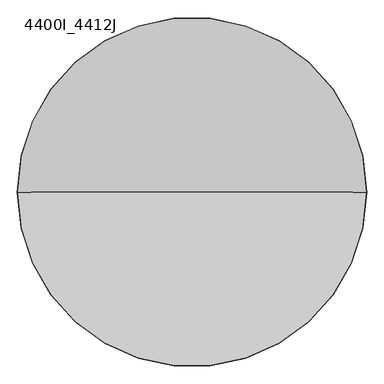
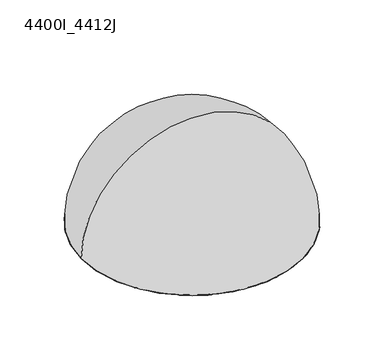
"""IFC4 building model written with IfcOpenShell, lengths in millimetres: alarm geometry, 4400I_Analog Multi Detector : 4400I_4412J."""

from ifc_helpers import new_model, si_unit, point, frame, origin, origin_with_axes, origin_2d, place, context, project, spatial, polyline, circle_curve, ellipse_curve, trimmed, segment, composite_curve, outline, extrude, source, transform, mapped, element, save
from ifc_brep_helpers import plane_surface, cylinder_surface, revolved_surface, advanced_brep


def alarm_4400i_4412j_adf62544(model_context):
    return source(origin(), model_context, "Body", "SolidModel", [
        advanced_brep(
        [(49.4021885, 0.0, 18.7), (-49.4021885, 0.0, 18.7), (-29.0341186, 0.0, 25.5490601), (29.0341186, 0.0, 25.5490601), (46.9790343, 0.0, 18.7), (-46.9790343, 0.0, 18.7), (26.6109644, 0.0, 25.5490601), (-26.6109644, 0.0, 25.5490601)],
        [
            (0, 1, circle_curve(frame((0.0, 0.0, 18.7), z_axis=(0.0, 0.0, 1.0), x_axis=(-1.0, 0.0, 0.0)), 49.4021885)),
            (1, 2),
            (2, 3, circle_curve(frame((0.0, 0.0, 25.5490601), z_axis=(0.0, 0.0, -1.0), x_axis=(-1.0, 0.0, 0.0)), 29.0341186)),
            (3, 0),
            (1, 0, circle_curve(frame((0.0, 0.0, 18.7), z_axis=(0.0, 0.0, 1.0), x_axis=(-1.0, 0.0, 0.0)), 49.4021885)),
            (3, 2, circle_curve(frame((0.0, 0.0, 25.5490601), z_axis=(0.0, 0.0, -1.0), x_axis=(-1.0, 0.0, 0.0)), 29.0341186)),
            (4, 5, circle_curve(frame((0.0, 0.0, 18.7), z_axis=(0.0, 0.0, 1.0), x_axis=(-1.0, 0.0, 0.0)), 46.9790343)),
            (5, 1),
            (0, 4),
            (5, 4, circle_curve(frame((0.0, 0.0, 18.7), z_axis=(0.0, 0.0, 1.0), x_axis=(-1.0, 0.0, 0.0)), 46.9790343)),
            (6, 7, circle_curve(frame((0.0, 0.0, 25.5490601), z_axis=(0.0, 0.0, 1.0), x_axis=(-1.0, 0.0, 0.0)), 26.6109644)),
            (7, 5),
            (4, 6),
            (7, 6, circle_curve(frame((0.0, 0.0, 25.5490601), z_axis=(0.0, 0.0, 1.0), x_axis=(-1.0, 0.0, 0.0)), 26.6109644)),
            (2, 7),
            (6, 3),
        ],
        [
            revolved_surface(polyline([(-29.0341186, 0.0, 25.5490601), (-49.4021885, 0.0, 18.7)]), (0.0, 0.0, 2609.0581012), (0.0, 0.0, -1.0)),
            plane_surface(frame((0.0, 0.0, 18.7), z_axis=(0.0, 0.0, -1.0), x_axis=(-1.0, 0.0, 0.0))),
            revolved_surface(polyline([(-46.9790343, 0.0, 18.7), (-26.6109644, 0.0, 25.5490601)]), (0.0, 0.0, 2609.0581012), (0.0, 0.0, -1.0)),
            plane_surface(frame((0.0, 0.0, 25.5490601), z_axis=(0.0, 0.0, 1.0), x_axis=(-1.0, 0.0, 0.0))),
        ],
        [
            (0, [[1, 2, 3, 4]]),
            (0, [[5, -4, 6, -2]]),
            (1, [[7, 8, -1, 9]]),
            (1, [[10, -9, -5, -8]]),
            (2, [[11, 12, -7, 13]]),
            (2, [[14, -13, -10, -12]]),
            (3, [[-3, 15, -11, 16]]),
            (3, [[-6, -16, -14, -15]]),
        ],
    ),
        advanced_brep(
        [(-25.0, 0.0, 47.0), (25.0, 0.0, 47.0), (-10.2364426, 22.8082275, 25.5490601), (-7.8171012, 23.7464298, 25.5490601), (-6.566365, 19.9470011, 25.5490601), (-0.7601379, 20.9862381, 25.5490601), (-0.7748533, 24.9879892, 25.5490601), (1.8194655, 24.933703, 25.5490601), (1.528351, 20.9443105, 25.5490601), (7.2926143, 19.6930895, 25.5490601), (8.8036125, 23.3986411, 25.5490601), (11.1815896, 22.3600549, 25.5490601), (9.3925353, 18.7824461, 25.5490601), (14.2453716, 15.4294973, 25.5490601), (17.0541691, 18.2799157, 25.5490601), (18.857118, 16.4136864, 25.5490601), (15.8399791, 13.7874966, 25.5490601), (19.0494019, 8.8385682, 25.5490601), (22.7323284, 10.4039053, 25.5490601), (23.688298, 7.9915291, 25.5490601), (19.8981703, 6.7128844, 25.5490601), (20.9800803, 0.9144573, 25.5490601), (24.9816149, 0.9586025, 25.5490601), (25.0, 0.0, 25.5490601), (24.9464097, -1.6360453, 25.5490601), (20.9549841, -1.3742781, 25.5490601), (19.7461893, -7.1475874, 25.5490601), (23.4627531, -8.6312929, 25.5490601), (22.4416834, -11.0168438, 25.5490601), (18.851014, -9.2541488, 25.5490601), (15.5338454, -14.1315126, 25.5490601), (18.4048435, -16.9192711, 25.5490601), (16.5519242, -18.7358962, 25.5490601), (13.9036163, -15.7381528, 25.5490601), (8.978425, -18.9838849, 25.5490601), (10.5708052, -22.6551998, 25.5490601), (8.1655248, -23.628885, 25.5490601), (6.8590408, -19.8482634, 25.5490601), (1.0687273, -20.9727877, 25.5490601), (1.1422999, -24.9738894, 25.5490601), (-1.4525367, -24.9577671, 25.5490601), (-1.2201308, -20.9645243, 25.5490601), (-7.0021739, -19.7982211, 25.5490601), (-8.4585064, -23.5255961, 25.5490601), (-10.8515021, -22.5220981, 25.5490601), (-9.1152617, -18.9185624, 25.5490601), (-14.0168893, -15.6373532, 25.5490601), (-16.7834581, -18.5287758, 25.5490601), (-18.613661, -16.6892667, 25.5490601), (-15.6354753, -14.018984, 25.5490601), (-18.9173411, -9.1177961, 25.5490601), (-22.5768458, -10.7371334, 25.5490601), (-23.5681939, -8.3390788, 25.5490601), (-19.7972829, -7.0048262, 25.5490601), (-20.9643607, -1.2229394, 25.5490601), (-24.9648131, -1.3259355, 25.5490601), (-25.0, 0.0, 25.5490601), (-24.9677746, 1.2689495, 25.5490601), (-20.9729306, 1.0659176, 25.5490601), (-19.8491821, 6.8563817, 25.5490601), (-23.5871666, 8.2852624, 25.5490601), (-22.2772169, 11.3457307, 25.5490601), (-18.7128622, 9.5304138, 25.5490601), (-15.3243147, 14.3584602, 25.5490601), (-18.1539992, 17.1881446, 25.5490601), (-16.2745608, 18.9773199, 25.5490601), (-13.6706311, 15.9409487, 25.5490601), (-8.6982334, 19.1138885, 25.5490601), (-24.9648131, -1.3259355, 44.9967715), (-23.5681939, -8.3390788, 44.9967715), (-22.5768458, -10.7371334, 44.9967715), (-18.613661, -16.6892667, 44.9967715), (-16.7834581, -18.5287758, 44.9967715), (-10.8515021, -22.5220981, 44.9967715), (-8.4585064, -23.5255961, 44.9967715), (-1.4525367, -24.9577671, 44.9967715), (1.1422999, -24.9738894, 44.9967715), (8.1655248, -23.628885, 44.9967715), (10.5708052, -22.6551998, 44.9967715), (16.5519242, -18.7358962, 44.9967715), (18.4048435, -16.9192711, 44.9967715), (22.4416834, -11.0168438, 44.9967715), (23.4627531, -8.6312929, 44.9967715), (24.9464097, -1.6360453, 44.9967715), (24.9816149, 0.9586025, 44.9967715), (23.688298, 7.9915291, 44.9967715), (22.7323284, 10.4039053, 44.9967715), (18.857118, 16.4136864, 44.9967715), (17.0541691, 18.2799157, 44.9967715), (11.1815896, 22.3600549, 44.9967715), (8.8036125, 23.3986411, 44.9967715), (1.8194655, 24.933703, 44.9967715), (-0.7748533, 24.9879892, 44.9967715), (-7.8171012, 23.7464298, 44.9967715), (-10.2364426, 22.8082275, 44.9967715), (-16.2745608, 18.9773199, 44.9967715), (-18.1539992, 17.1881446, 44.9967715), (-22.2772169, 11.3457307, 44.9967715), (-23.5871666, 8.2852624, 44.9967715), (-24.9677746, 1.2689495, 44.9967715), (-8.6982334, 19.1138885, 44.9967715), (-13.6706311, 15.9409487, 44.9967715), (-0.7601379, 20.9862381, 44.9967715), (-6.566365, 19.9470011, 44.9967715), (7.2926143, 19.6930895, 44.9967715), (1.528351, 20.9443105, 44.9967715), (14.2453716, 15.4294973, 44.9967715), (9.3925353, 18.7824461, 44.9967715), (19.0494019, 8.8385682, 44.9967715), (15.8399791, 13.7874966, 44.9967715), (20.9800803, 0.9144573, 44.9967715), (19.8981703, 6.7128844, 44.9967715), (19.7461893, -7.1475874, 44.9967715), (20.9549841, -1.3742781, 44.9967715), (15.5338454, -14.1315126, 44.9967715), (18.851014, -9.2541488, 44.9967715), (8.978425, -18.9838849, 44.9967715), (13.9036163, -15.7381528, 44.9967715), (1.0687273, -20.9727877, 44.9967715), (6.8590408, -19.8482634, 44.9967715), (-7.0021739, -19.7982211, 44.9967715), (-1.2201308, -20.9645243, 44.9967715), (-14.0168893, -15.6373532, 44.9967715), (-9.1152617, -18.9185624, 44.9967715), (-18.9173411, -9.1177961, 44.9967715), (-15.6354753, -14.018984, 44.9967715), (-20.9643607, -1.2229394, 44.9967715), (-19.7972829, -7.0048262, 44.9967715), (-19.8491821, 6.8563817, 44.9967715), (-20.9729306, 1.0659176, 44.9967715), (-15.3243147, 14.3584602, 44.9967715), (-18.7128622, 9.5304138, 44.9967715)],
        [
            (0, 1, circle_curve(frame((0.0, 0.0, 47.0), z_axis=(0.0, 0.0, 1.0), x_axis=(1.0, 0.0, 0.0)), 25.0)),
            (1, 0, circle_curve(frame((0.0, 0.0, 47.0), z_axis=(0.0, 0.0, 1.0), x_axis=(1.0, 0.0, 0.0)), 25.0)),
            (2, 3, circle_curve(frame((0.0, 0.0, 25.5490601), z_axis=(0.0, 0.0, -1.0), x_axis=(1.0, 0.0, 0.0)), 25.0)),
            (3, 4),
            (4, 5, circle_curve(frame((0.0, 0.0, 25.5490601), z_axis=(0.0, 0.0, -1.0), x_axis=(0.7097021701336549, -0.7045018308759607, 0.0)), 21.0)),
            (5, 6),
            (6, 7, circle_curve(frame((0.0, 0.0, 25.5490601), z_axis=(0.0, 0.0, -1.0), x_axis=(1.0, 0.0, 0.0)), 25.0)),
            (7, 8),
            (8, 9, circle_curve(frame((0.0, 0.0, 25.5490601), z_axis=(0.0, 0.0, -1.0), x_axis=(0.38777352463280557, -0.9217546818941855, 0.0)), 21.0)),
            (9, 10),
            (10, 11, circle_curve(frame((0.0, 0.0, 25.5490601), z_axis=(0.0, 0.0, -1.0), x_axis=(1.0, 0.0, 0.0)), 25.0)),
            (11, 12),
            (12, 13, circle_curve(frame((0.0, 0.0, 25.5490601), z_axis=(0.0, 0.0, -1.0), x_axis=(0.0073543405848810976, -0.9999729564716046, 0.0)), 21.0)),
            (13, 14),
            (14, 15, circle_curve(frame((0.0, 0.0, 25.5490601), z_axis=(0.0, 0.0, -1.0), x_axis=(1.0, 0.0, 0.0)), 25.0)),
            (15, 16),
            (16, 17, circle_curve(frame((0.0, 0.0, 25.5490601), z_axis=(0.0, 0.0, -1.0), x_axis=(-0.3741741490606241, -0.9273584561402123, 0.0)), 21.0)),
            (17, 18),
            (18, 19, circle_curve(frame((0.0, 0.0, 25.5490601), z_axis=(0.0, 0.0, -1.0), x_axis=(1.0, 0.0, 0.0)), 25.0)),
            (19, 20),
            (20, 21, circle_curve(frame((0.0, 0.0, 25.5490601), z_axis=(0.0, 0.0, -1.0), x_axis=(-0.6992633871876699, -0.7148641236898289, 0.0)), 21.0)),
            (21, 22),
            (22, 23, circle_curve(frame((0.0, 0.0, 25.5490601), z_axis=(0.0, 0.0, -1.0), x_axis=(1.0, 0.0, 0.0)), 25.0)),
            (23, 24, circle_curve(frame((0.0, 0.0, 25.5490601), z_axis=(0.0, 0.0, -1.0), x_axis=(1.0, 0.0, 0.0)), 25.0)),
            (24, 25),
            (25, 26, circle_curve(frame((0.0, 0.0, 25.5490601), z_axis=(0.0, 0.0, -1.0), x_axis=(-0.9188779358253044, -0.39454193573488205, 0.0)), 21.0)),
            (26, 27),
            (27, 28, circle_curve(frame((0.0, 0.0, 25.5490601), z_axis=(0.0, 0.0, -1.0), x_axis=(1.0, 0.0, 0.0)), 25.0)),
            (28, 29),
            (29, 30, circle_curve(frame((0.0, 0.0, 25.5490601), z_axis=(0.0, 0.0, -1.0), x_axis=(-0.9998918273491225, -0.014708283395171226, 0.0)), 21.0)),
            (30, 31),
            (31, 32, circle_curve(frame((0.0, 0.0, 25.5490601), z_axis=(0.0, 0.0, -1.0), x_axis=(1.0, 0.0, 0.0)), 25.0)),
            (32, 33),
            (33, 34, circle_curve(frame((0.0, 0.0, 25.5490601), z_axis=(0.0, 0.0, -1.0), x_axis=(-0.9300851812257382, 0.3673439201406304, 0.0)), 21.0)),
            (34, 35),
            (35, 36, circle_curve(frame((0.0, 0.0, 25.5490601), z_axis=(0.0, 0.0, -1.0), x_axis=(1.0, 0.0, 0.0)), 25.0)),
            (36, 37),
            (37, 38, circle_curve(frame((0.0, 0.0, 25.5490601), z_axis=(0.0, 0.0, -1.0), x_axis=(-0.7199874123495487, 0.6939871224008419, 0.0)), 21.0)),
            (38, 39),
            (39, 40, circle_curve(frame((0.0, 0.0, 25.5490601), z_axis=(0.0, 0.0, -1.0), x_axis=(1.0, 0.0, 0.0)), 25.0)),
            (40, 41),
            (41, 42, circle_curve(frame((0.0, 0.0, 25.5490601), z_axis=(0.0, 0.0, -1.0), x_axis=(-0.4012890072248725, 0.9159514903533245, 0.0)), 21.0)),
            (42, 43),
            (43, 44, circle_curve(frame((0.0, 0.0, 25.5490601), z_axis=(0.0, 0.0, -1.0), x_axis=(1.0, 0.0, 0.0)), 25.0)),
            (44, 45),
            (45, 46, circle_curve(frame((0.0, 0.0, 25.5490601), z_axis=(0.0, 0.0, -1.0), x_axis=(-0.022061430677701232, 0.9997566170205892, 0.0)), 21.0)),
            (46, 47),
            (47, 48, circle_curve(frame((0.0, 0.0, 25.5490601), z_axis=(0.0, 0.0, -1.0), x_axis=(1.0, 0.0, 0.0)), 25.0)),
            (48, 49),
            (49, 50, circle_curve(frame((0.0, 0.0, 25.5490601), z_axis=(0.0, 0.0, -1.0), x_axis=(0.36049382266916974, 0.9327616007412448, 0.0)), 21.0)),
            (50, 51),
            (51, 52, circle_curve(frame((0.0, 0.0, 25.5490601), z_axis=(0.0, 0.0, -1.0), x_axis=(1.0, 0.0, 0.0)), 25.0)),
            (52, 53),
            (53, 54, circle_curve(frame((0.0, 0.0, 25.5490601), z_axis=(0.0, 0.0, -1.0), x_axis=(0.6886733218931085, 0.7250717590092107, 0.0)), 21.0)),
            (54, 55),
            (55, 56, circle_curve(frame((0.0, 0.0, 25.5490601), z_axis=(0.0, 0.0, -1.0), x_axis=(1.0, 0.0, 0.0)), 25.0)),
            (56, 57, circle_curve(frame((0.0, 0.0, 25.5490601), z_axis=(0.0, 0.0, -1.0), x_axis=(1.0, 0.0, 0.0)), 25.0)),
            (57, 58),
            (58, 59, circle_curve(frame((0.0, 0.0, 25.5490601), z_axis=(0.0, 0.0, -1.0), x_axis=(0.9129755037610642, 0.4080143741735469, 0.0)), 21.0)),
            (59, 60),
            (60, 61, circle_curve(frame((0.0, 0.0, 25.5490601), z_axis=(0.0, 0.0, -1.0), x_axis=(1.0, 0.0, 0.0)), 25.0)),
            (61, 62),
            (62, 63, circle_curve(frame((0.0, 0.0, 25.5490601), z_axis=(0.0, 0.0, -1.0), x_axis=(1.0, 0.0, 0.0)), 21.0)),
            (63, 64),
            (64, 65, circle_curve(frame((0.0, 0.0, 25.5490601), z_axis=(0.0, 0.0, -1.0), x_axis=(1.0, 0.0, 0.0)), 25.0)),
            (65, 66),
            (66, 67, circle_curve(frame((0.0, 0.0, 25.5490601), z_axis=(0.0, 0.0, -1.0), x_axis=(0.9245815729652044, -0.3809841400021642, 0.0)), 21.0)),
            (67, 2),
            (0, 56),
            (55, 68),
            (68, 69, circle_curve(frame((0.0, 0.0, 44.9967715), z_axis=(0.0, 0.0, 1.0), x_axis=(1.0, 0.0, 0.0)), 25.0)),
            (69, 52),
            (51, 70),
            (70, 71, circle_curve(frame((0.0, 0.0, 44.9967715), z_axis=(0.0, 0.0, 1.0), x_axis=(1.0, 0.0, 0.0)), 25.0)),
            (71, 48),
            (47, 72),
            (72, 73, circle_curve(frame((0.0, 0.0, 44.9967715), z_axis=(0.0, 0.0, 1.0), x_axis=(1.0, 0.0, 0.0)), 25.0)),
            (73, 44),
            (43, 74),
            (74, 75, circle_curve(frame((0.0, 0.0, 44.9967715), z_axis=(0.0, 0.0, 1.0), x_axis=(1.0, 0.0, 0.0)), 25.0)),
            (75, 40),
            (39, 76),
            (76, 77, circle_curve(frame((0.0, 0.0, 44.9967715), z_axis=(0.0, 0.0, 1.0), x_axis=(1.0, 0.0, 0.0)), 25.0)),
            (77, 36),
            (35, 78),
            (78, 79, circle_curve(frame((0.0, 0.0, 44.9967715), z_axis=(0.0, 0.0, 1.0), x_axis=(1.0, 0.0, 0.0)), 25.0)),
            (79, 32),
            (31, 80),
            (80, 81, circle_curve(frame((0.0, 0.0, 44.9967715), z_axis=(0.0, 0.0, 1.0), x_axis=(1.0, 0.0, 0.0)), 25.0)),
            (81, 28),
            (27, 82),
            (82, 83, circle_curve(frame((0.0, 0.0, 44.9967715), z_axis=(0.0, 0.0, 1.0), x_axis=(1.0, 0.0, 0.0)), 25.0)),
            (83, 24),
            (23, 1),
            (22, 84),
            (84, 85, circle_curve(frame((0.0, 0.0, 44.9967715), z_axis=(0.0, 0.0, 1.0), x_axis=(1.0, 0.0, 0.0)), 25.0)),
            (85, 19),
            (18, 86),
            (86, 87, circle_curve(frame((0.0, 0.0, 44.9967715), z_axis=(0.0, 0.0, 1.0), x_axis=(1.0, 0.0, 0.0)), 25.0)),
            (87, 15),
            (14, 88),
            (88, 89, circle_curve(frame((0.0, 0.0, 44.9967715), z_axis=(0.0, 0.0, 1.0), x_axis=(1.0, 0.0, 0.0)), 25.0)),
            (89, 11),
            (10, 90),
            (90, 91, circle_curve(frame((0.0, 0.0, 44.9967715), z_axis=(0.0, 0.0, 1.0), x_axis=(1.0, 0.0, 0.0)), 25.0)),
            (91, 7),
            (6, 92),
            (92, 93, circle_curve(frame((0.0, 0.0, 44.9967715), z_axis=(0.0, 0.0, 1.0), x_axis=(1.0, 0.0, 0.0)), 25.0)),
            (93, 3),
            (2, 94),
            (94, 95, circle_curve(frame((0.0, 0.0, 44.9967715), z_axis=(0.0, 0.0, 1.0), x_axis=(1.0, 0.0, 0.0)), 25.0)),
            (95, 65),
            (64, 96),
            (96, 97, circle_curve(frame((0.0, 0.0, 44.9967715), z_axis=(0.0, 0.0, 1.0), x_axis=(1.0, 0.0, 0.0)), 25.0)),
            (97, 61),
            (60, 98),
            (98, 99, circle_curve(frame((0.0, 0.0, 44.9967715), z_axis=(0.0, 0.0, 1.0), x_axis=(1.0, 0.0, 0.0)), 25.0)),
            (99, 57),
            (100, 101, circle_curve(frame((0.0, 0.0, 44.9967715), z_axis=(0.0, 0.0, 1.0), x_axis=(0.9245815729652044, -0.3809841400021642, 0.0)), 21.0)),
            (101, 95),
            (94, 100),
            (102, 103, circle_curve(frame((0.0, 0.0, 44.9967715), z_axis=(0.0, 0.0, 1.0), x_axis=(0.7097021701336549, -0.7045018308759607, 0.0)), 21.0)),
            (103, 93),
            (92, 102),
            (104, 105, circle_curve(frame((0.0, 0.0, 44.9967715), z_axis=(0.0, 0.0, 1.0), x_axis=(0.38777352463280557, -0.9217546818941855, 0.0)), 21.0)),
            (105, 91),
            (90, 104),
            (106, 107, circle_curve(frame((0.0, 0.0, 44.9967715), z_axis=(0.0, 0.0, 1.0), x_axis=(0.0073543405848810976, -0.9999729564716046, 0.0)), 21.0)),
            (107, 89),
            (88, 106),
            (108, 109, circle_curve(frame((0.0, 0.0, 44.9967715), z_axis=(0.0, 0.0, 1.0), x_axis=(-0.3741741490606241, -0.9273584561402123, 0.0)), 21.0)),
            (109, 87),
            (86, 108),
            (110, 111, circle_curve(frame((0.0, 0.0, 44.9967715), z_axis=(0.0, 0.0, 1.0), x_axis=(-0.6992633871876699, -0.7148641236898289, 0.0)), 21.0)),
            (111, 85),
            (84, 110),
            (112, 113, circle_curve(frame((0.0, 0.0, 44.9967715), z_axis=(0.0, 0.0, 1.0), x_axis=(-0.9188779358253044, -0.39454193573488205, 0.0)), 21.0)),
            (113, 83),
            (82, 112),
            (114, 115, circle_curve(frame((0.0, 0.0, 44.9967715), z_axis=(0.0, 0.0, 1.0), x_axis=(-0.9998918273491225, -0.014708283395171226, 0.0)), 21.0)),
            (115, 81),
            (80, 114),
            (116, 117, circle_curve(frame((0.0, 0.0, 44.9967715), z_axis=(0.0, 0.0, 1.0), x_axis=(-0.9300851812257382, 0.3673439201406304, 0.0)), 21.0)),
            (117, 79),
            (78, 116),
            (118, 119, circle_curve(frame((0.0, 0.0, 44.9967715), z_axis=(0.0, 0.0, 1.0), x_axis=(-0.7199874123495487, 0.6939871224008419, 0.0)), 21.0)),
            (119, 77),
            (76, 118),
            (120, 121, circle_curve(frame((0.0, 0.0, 44.9967715), z_axis=(0.0, 0.0, 1.0), x_axis=(-0.4012890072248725, 0.9159514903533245, 0.0)), 21.0)),
            (121, 75),
            (74, 120),
            (122, 123, circle_curve(frame((0.0, 0.0, 44.9967715), z_axis=(0.0, 0.0, 1.0), x_axis=(-0.022061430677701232, 0.9997566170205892, 0.0)), 21.0)),
            (123, 73),
            (72, 122),
            (124, 125, circle_curve(frame((0.0, 0.0, 44.9967715), z_axis=(0.0, 0.0, 1.0), x_axis=(0.36049382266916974, 0.9327616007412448, 0.0)), 21.0)),
            (125, 71),
            (70, 124),
            (126, 127, circle_curve(frame((0.0, 0.0, 44.9967715), z_axis=(0.0, 0.0, 1.0), x_axis=(0.6886733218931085, 0.7250717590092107, 0.0)), 21.0)),
            (127, 69),
            (68, 126),
            (128, 129, circle_curve(frame((0.0, 0.0, 44.9967715), z_axis=(0.0, 0.0, 1.0), x_axis=(0.9129755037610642, 0.4080143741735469, 0.0)), 21.0)),
            (129, 99),
            (98, 128),
            (130, 131, circle_curve(frame((0.0, 0.0, 44.9967715), z_axis=(0.0, 0.0, 1.0), x_axis=(1.0, 0.0, 0.0)), 21.0)),
            (131, 97),
            (96, 130),
            (100, 67),
            (66, 101),
            (102, 5),
            (4, 103),
            (104, 9),
            (8, 105),
            (106, 13),
            (12, 107),
            (108, 17),
            (16, 109),
            (110, 21),
            (20, 111),
            (26, 112),
            (113, 25),
            (30, 114),
            (115, 29),
            (34, 116),
            (117, 33),
            (119, 37),
            (118, 38),
            (42, 120),
            (121, 41),
            (46, 122),
            (123, 45),
            (125, 49),
            (124, 50),
            (127, 53),
            (126, 54),
            (128, 59),
            (58, 129),
            (130, 63),
            (62, 131),
        ],
        [
            plane_surface(frame((25.0, 0.0, 47.0), z_axis=(0.0, 0.0, 1.0), x_axis=(0.0, 1.0, 0.0))),
            plane_surface(frame((25.0, 0.0, 25.5490601), z_axis=(0.0, 0.0, -1.0), x_axis=(0.0, -1.0, 0.0))),
            cylinder_surface(frame((0.0, 0.0, 25.5490601), z_axis=(0.0, 0.0, 1.0), x_axis=(1.0, 0.0, 0.0)), 25.0),
            plane_surface(frame((19.416213, -8.0006669, 44.9967715), z_axis=(0.0, 0.0, -1.0), x_axis=(-0.38098414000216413, -0.9245815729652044, 0.0))),
            cylinder_surface(frame((0.0, 0.0, 25.5490601), z_axis=(0.0, 0.0, -1.0000000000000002), x_axis=(0.9245815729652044, -0.3809841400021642, 0.0)), 21.0),
            plane_surface(frame((-8.6982334, 19.1138885, 44.9967715), z_axis=(-0.9231743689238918, -0.3843814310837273, 0.0), x_axis=(0.0, 0.0, -1.0))),
            plane_surface(frame((-18.8784906, 22.0136911, 44.9967715), z_axis=(0.7590927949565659, 0.6509824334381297, 0.0), x_axis=(0.0, 0.0, -1.0))),
            cylinder_surface(frame((0.0, 0.0, 0.0), z_axis=(0.0, 0.0, -1.0), x_axis=(0.7097021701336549, -0.7045018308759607, 0.0)), 21.0),
            plane_surface(frame((-0.7601379, 20.9862381, 44.9967715), z_axis=(-0.9999932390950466, -0.0036771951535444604, 0.0), x_axis=(0.0, 0.0, -1.0))),
            plane_surface(frame((-9.0678374, 27.5458586, 44.9967715), z_axis=(0.9498571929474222, 0.3126840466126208, 0.0), x_axis=(0.0, 0.0, -1.0))),
            cylinder_surface(frame((0.0, 0.0, 0.0), z_axis=(0.0, 0.0, -1.0000000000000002), x_axis=(0.38777352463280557, -0.9217546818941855, 0.0)), 21.0),
            plane_surface(frame((7.2926143, 19.6930895, 44.9967715), z_axis=(-0.9259762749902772, 0.37758169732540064, 0.0), x_axis=(0.0, 0.0, -1.0))),
            plane_surface(frame((2.1105799, 28.9230955, 44.9967715), z_axis=(0.9973481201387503, -0.07277861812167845, 0.0), x_axis=(0.0, 0.0, -1.0))),
            cylinder_surface(frame((0.0, 0.0, 0.0), z_axis=(0.0, 0.0, -1.0), x_axis=(0.0073543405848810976, -0.9999729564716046, 0.0)), 21.0),
            plane_surface(frame((14.2453716, 15.4294973, 44.9967715), z_axis=(-0.7122879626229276, 0.7018873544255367, 0.0), x_axis=(0.0, 0.0, -1.0))),
            plane_surface(frame((12.970644, 25.9376636, 44.9967715), z_axis=(0.8944021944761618, -0.44726358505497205, 0.0), x_axis=(0.0, 0.0, -1.0))),
            cylinder_surface(frame((0.0, 0.0, 0.0), z_axis=(0.0, 0.0, -1.0000000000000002), x_axis=(-0.3741741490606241, -0.9273584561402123, 0.0)), 21.0),
            plane_surface(frame((19.0494019, 8.8385682, 44.9967715), z_axis=(-0.39116037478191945, 0.9203225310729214, 0.0), x_axis=(0.0, 0.0, -1.0))),
            plane_surface(frame((21.8742569, 19.0398762, 44.9967715), z_axis=(0.6565474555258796, -0.7542847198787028, 0.0), x_axis=(0.0, 0.0, -1.0))),
            cylinder_surface(frame((0.0, 0.0, 0.0), z_axis=(0.0, 0.0, -1.0), x_axis=(-0.6992633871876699, -0.7148641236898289, 0.0)), 21.0),
            plane_surface(frame((20.9800803, 0.9144573, 44.9967715), z_axis=(-0.011031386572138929, 0.999939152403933, 0.0), x_axis=(0.0, 0.0, -1.0))),
            plane_surface(frame((27.4784257, 9.2701738, 44.9967715), z_axis=(0.3196611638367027, -0.9475319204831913, 0.0), x_axis=(0.0, 0.0, -1.0))),
            plane_surface(frame((19.7461893, -7.1475874, 44.9967715), z_axis=(0.37076154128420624, 0.9287280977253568, 0.0), x_axis=(0.0, 0.0, -1.0))),
            plane_surface(frame((28.9378352, -1.8978126, 44.9967715), z_axis=(-0.06544181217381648, -0.9978563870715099, 0.0), x_axis=(0.0, 0.0, -1.0))),
            cylinder_surface(frame((0.0, 0.0, 0.0), z_axis=(0.0, 0.0, -1.0), x_axis=(-0.9188779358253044, -0.39454193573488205, 0.0)), 21.0),
            plane_surface(frame((15.5338454, -14.1315126, 44.9967715), z_axis=(0.6966299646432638, 0.7174306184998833, 0.0), x_axis=(0.0, 0.0, -1.0))),
            plane_surface(frame((26.0323527, -12.7795388, 44.9967715), z_axis=(-0.44067375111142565, -0.8976673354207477, 0.0), x_axis=(0.0, 0.0, -1.0))),
            cylinder_surface(frame((0.0, 0.0, 0.0), z_axis=(0.0, 0.0, -1.0), x_axis=(-0.9998918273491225, -0.014708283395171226, 0.0)), 21.0),
            plane_surface(frame((8.978425, -18.9838849, 44.9967715), z_axis=(0.9174209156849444, 0.39791816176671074, 0.0), x_axis=(0.0, 0.0, -1.0))),
            plane_surface(frame((19.200232, -21.7336396, 44.9967715), z_axis=(-0.7494358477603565, -0.6620769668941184, 0.0), x_axis=(0.0, 0.0, -1.0))),
            cylinder_surface(frame((0.0, 0.0, 0.0), z_axis=(0.0, 0.0, -1.0000000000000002), x_axis=(-0.9300851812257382, 0.3673439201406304, 0.0)), 21.0),
            plane_surface(frame((9.4720088, -27.4095066, 44.9967715), z_axis=(-0.945155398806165, -0.3266209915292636, 0.0), x_axis=(0.0, 0.0, -1.0))),
            cylinder_surface(frame((0.0, 0.0, 0.0), z_axis=(0.0, 0.0, -1.0000000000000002), x_axis=(-0.7199874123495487, 0.6939871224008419, 0.0)), 21.0),
            plane_surface(frame((1.0687273, -20.9727877, 44.9967715), z_axis=(0.9998309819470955, 0.01838498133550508, 0.0), x_axis=(0.0, 0.0, -1.0))),
            plane_surface(frame((-7.0021739, -19.7982211, 44.9967715), z_axis=(0.9314296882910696, -0.3639213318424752, 0.0), x_axis=(0.0, 0.0, -1.0))),
            plane_surface(frame((-1.6849425, -28.9510098, 44.9967715), z_axis=(-0.9983106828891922, 0.058101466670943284, 0.0), x_axis=(0.0, 0.0, -1.0))),
            cylinder_surface(frame((0.0, 0.0, 0.0), z_axis=(0.0, 0.0, -1.0), x_axis=(-0.4012890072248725, 0.9159514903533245, 0.0)), 21.0),
            plane_surface(frame((-14.0168893, -15.6373532, 44.9967715), z_axis=(0.7225344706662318, -0.691334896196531, 0.0), x_axis=(0.0, 0.0, -1.0))),
            plane_surface(frame((-12.5877424, -26.1256338, 44.9967715), z_axis=(-0.9008839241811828, 0.43406008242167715, 0.0), x_axis=(0.0, 0.0, -1.0))),
            cylinder_surface(frame((0.0, 0.0, 0.0), z_axis=(0.0, 0.0, -1.0), x_axis=(-0.022061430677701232, 0.9997566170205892, 0.0)), 21.0),
            plane_surface(frame((-21.5918468, -19.3595494, 44.9967715), z_axis=(-0.6675706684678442, 0.7445464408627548, 0.0), x_axis=(0.0, 0.0, -1.0))),
            cylinder_surface(frame((0.0, 0.0, 0.0), z_axis=(0.0, 0.0, -1.0000000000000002), x_axis=(0.36049382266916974, 0.9327616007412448, 0.0)), 21.0),
            plane_surface(frame((-18.9173411, -9.1177961, 44.9967715), z_axis=(0.4046544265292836, -0.914469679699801, 0.0), x_axis=(0.0, 0.0, -1.0))),
            plane_surface(frame((-27.3391049, -9.6733314, 44.9967715), z_axis=(-0.3335631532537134, 0.9427277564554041, 0.0), x_axis=(0.0, 0.0, -1.0))),
            cylinder_surface(frame((0.0, 0.0, 0.0), z_axis=(0.0, 0.0, -1.0), x_axis=(0.6886733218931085, 0.7250717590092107, 0.0)), 21.0),
            plane_surface(frame((-20.9643607, -1.2229394, 44.9967715), z_axis=(0.025737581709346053, -0.9996687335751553, 0.0), x_axis=(0.0, 0.0, -1.0))),
            cylinder_surface(frame((0.0, 0.0, 0.0), z_axis=(0.0, 0.0, -1.0), x_axis=(0.9129755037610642, 0.4080143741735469, 0.0)), 21.0),
            plane_surface(frame((-19.8491821, 6.8563817, 44.9967715), z_axis=(-0.35706143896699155, -0.9340809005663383, 0.0), x_axis=(0.0, 0.0, -1.0))),
            plane_surface(frame((-28.9626185, 1.4719814, 44.9967715), z_axis=(0.05075797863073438, 0.998710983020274, 0.0), x_axis=(0.0, 0.0, -1.0))),
            cylinder_surface(frame((0.0, 0.0, 0.0), z_axis=(0.0, 0.0, -1.0), x_axis=(1.0, 0.0, 0.0)), 21.0),
            plane_surface(frame((-15.3243147, 14.3584602, 44.9967715), z_axis=(-0.7071067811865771, -0.7071067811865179, 0.0), x_axis=(0.0, 0.0, -1.0))),
            plane_surface(frame((-25.8415717, 13.1610476, 44.9967715), z_axis=(0.45382922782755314, 0.8910886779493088, 0.0), x_axis=(0.0, 0.0, -1.0))),
        ],
        [
            (0, [[1, 2]]),
            (1, [[3, 4, 5, 6, 7, 8, 9, 10, 11, 12, 13, 14, 15, 16, 17, 18, 19, 20, 21, 22, 23, 24, 25, 26, 27, 28, 29, 30, 31, 32, 33, 34, 35, 36, 37, 38, 39, 40, 41, 42, 43, 44, 45, 46, 47, 48, 49, 50, 51, 52, 53, 54, 55, 56, 57, 58, 59, 60, 61, 62, 63, 64, 65, 66, 67, 68]]),
            (2, [[-1, 69, -56, 70, 71, 72, -52, 73, 74, 75, -48, 76, 77, 78, -44, 79, 80, 81, -40, 82, 83, 84, -36, 85, 86, 87, -32, 88, 89, 90, -28, 91, 92, 93, -24, 94]]),
            (2, [[-2, -94, -23, 95, 96, 97, -19, 98, 99, 100, -15, 101, 102, 103, -11, 104, 105, 106, -7, 107, 108, 109, -3, 110, 111, 112, -65, 113, 114, 115, -61, 116, 117, 118, -57, -69]]),
            (3, [[119, 120, -111, 121]]),
            (3, [[122, 123, -108, 124]]),
            (3, [[125, 126, -105, 127]]),
            (3, [[128, 129, -102, 130]]),
            (3, [[131, 132, -99, 133]]),
            (3, [[134, 135, -96, 136]]),
            (3, [[137, 138, -92, 139]]),
            (3, [[140, 141, -89, 142]]),
            (3, [[143, 144, -86, 145]]),
            (3, [[146, 147, -83, 148]]),
            (3, [[149, 150, -80, 151]]),
            (3, [[152, 153, -77, 154]]),
            (3, [[155, 156, -74, 157]]),
            (3, [[158, 159, -71, 160]]),
            (3, [[161, 162, -117, 163]]),
            (3, [[164, 165, -114, 166]]),
            (4, [[-119, 167, -67, 168]]),
            (5, [[-167, -121, -110, -68]]),
            (6, [[-168, -66, -112, -120]]),
            (7, [[-122, 169, -5, 170]]),
            (8, [[-169, -124, -107, -6]]),
            (9, [[-170, -4, -109, -123]]),
            (10, [[-125, 171, -9, 172]]),
            (11, [[-171, -127, -104, -10]]),
            (12, [[-172, -8, -106, -126]]),
            (13, [[-128, 173, -13, 174]]),
            (14, [[-173, -130, -101, -14]]),
            (15, [[-174, -12, -103, -129]]),
            (16, [[-131, 175, -17, 176]]),
            (17, [[-175, -133, -98, -18]]),
            (18, [[-176, -16, -100, -132]]),
            (19, [[-134, 177, -21, 178]]),
            (20, [[-177, -136, -95, -22]]),
            (21, [[-178, -20, -97, -135]]),
            (22, [[179, -139, -91, -27]]),
            (23, [[180, -25, -93, -138]]),
            (24, [[-137, -179, -26, -180]]),
            (25, [[181, -142, -88, -31]]),
            (26, [[182, -29, -90, -141]]),
            (27, [[-140, -181, -30, -182]]),
            (28, [[183, -145, -85, -35]]),
            (29, [[184, -33, -87, -144]]),
            (30, [[-143, -183, -34, -184]]),
            (31, [[185, -37, -84, -147]]),
            (32, [[-146, 186, -38, -185]]),
            (33, [[-186, -148, -82, -39]]),
            (34, [[187, -151, -79, -43]]),
            (35, [[188, -41, -81, -150]]),
            (36, [[-149, -187, -42, -188]]),
            (37, [[189, -154, -76, -47]]),
            (38, [[190, -45, -78, -153]]),
            (39, [[-152, -189, -46, -190]]),
            (40, [[191, -49, -75, -156]]),
            (41, [[-155, 192, -50, -191]]),
            (42, [[-192, -157, -73, -51]]),
            (43, [[193, -53, -72, -159]]),
            (44, [[-158, 194, -54, -193]]),
            (45, [[-194, -160, -70, -55]]),
            (46, [[-161, 195, -59, 196]]),
            (47, [[-195, -163, -116, -60]]),
            (48, [[-196, -58, -118, -162]]),
            (49, [[-164, 197, -63, 198]]),
            (50, [[-197, -166, -113, -64]]),
            (51, [[-198, -62, -115, -165]]),
        ],
    ),
        advanced_brep(
        [(25.0, 0.0, 18.7), (-25.0, 0.0, 18.7), (-25.0, 0.0, 17.0), (25.0, 0.0, 17.0), (49.4021885, 0.0, 18.7), (-49.4021885, 0.0, 18.7), (51.0000836, 0.0, 17.0), (-51.0000836, 0.0, 17.0)],
        [
            (0, 1, circle_curve(frame((0.0, 0.0, 18.7), z_axis=(0.0, 0.0, 1.0), x_axis=(-1.0, 0.0, 0.0)), 25.0)),
            (1, 2),
            (2, 3, circle_curve(frame((0.0, 0.0, 17.0), z_axis=(0.0, 0.0, -1.0), x_axis=(-1.0, 0.0, 0.0)), 25.0)),
            (3, 0),
            (1, 0, circle_curve(frame((0.0, 0.0, 18.7), z_axis=(0.0, 0.0, 1.0), x_axis=(-1.0, 0.0, 0.0)), 25.0)),
            (3, 2, circle_curve(frame((0.0, 0.0, 17.0), z_axis=(0.0, 0.0, -1.0), x_axis=(-1.0, 0.0, 0.0)), 25.0)),
            (4, 5, circle_curve(frame((0.0, 0.0, 18.7), z_axis=(0.0, 0.0, 1.0), x_axis=(-1.0, 0.0, 0.0)), 49.4021885)),
            (5, 1),
            (0, 4),
            (5, 4, circle_curve(frame((0.0, 0.0, 18.7), z_axis=(0.0, 0.0, 1.0), x_axis=(-1.0, 0.0, 0.0)), 49.4021885)),
            (6, 7, circle_curve(frame((0.0, 0.0, 17.0), z_axis=(0.0, 0.0, 1.0), x_axis=(-1.0, 0.0, 0.0)), 51.0000836)),
            (7, 5, circle_curve(frame((-49.2482507, 0.0, 16.9543466), z_axis=(0.0, 1.0, 0.0), x_axis=(1.0, 0.0, 0.0)), 1.7524276)),
            (4, 6, circle_curve(frame((49.2482507, 0.0, 16.9543466), z_axis=(0.0, 1.0, 0.0), x_axis=(-1.0, 0.0, 0.0)), 1.7524276)),
            (7, 6, circle_curve(frame((0.0, 0.0, 17.0), z_axis=(0.0, 0.0, 1.0), x_axis=(-1.0, 0.0, 0.0)), 51.0000836)),
            (2, 7),
            (6, 3),
        ],
        [
            revolved_surface(polyline([(-25.0, 0.0, 17.0), (-25.0, 0.0, 18.699999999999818)]), (0.0, 0.0, 2609.0581012), (0.0, 0.0, -1.0)),
            plane_surface(frame((0.0, 0.0, 18.7), z_axis=(0.0, 0.0, 1.0), x_axis=(-1.0, 0.0, 0.0))),
            revolved_surface(trimmed(ellipse_curve(frame((-49.2482507, 0.0, 16.9543466), z_axis=(0.0, -1.0, 0.0), x_axis=(1.0, 0.0, 0.0)), 1.7524276, 1.7524276), [point((-49.4021885, 0.0, 18.7))], [point((-51.0000836, 0.0, 17.0))], True, "CARTESIAN"), (0.0, 0.0, 2609.0581012), (0.0, 0.0, -1.0)),
            plane_surface(frame((0.0, 0.0, 17.0), z_axis=(0.0, 0.0, -1.0), x_axis=(-1.0, 0.0, 0.0))),
        ],
        [
            (0, [[1, 2, 3, 4]]),
            (0, [[5, -4, 6, -2]]),
            (1, [[7, 8, -1, 9]]),
            (1, [[10, -9, -5, -8]]),
            (2, [[11, 12, -7, 13]]),
            (2, [[14, -13, -10, -12]]),
            (3, [[-3, 15, -11, 16]]),
            (3, [[-6, -16, -14, -15]]),
        ],
    ),
        extrude(outline(composite_curve([segment(trimmed(circle_curve(origin_2d(), 51.0), [point((-51.0, 0.0))], [point((51.0, 0.0))], False, "CARTESIAN"), True, "CONTINUOUS"), segment(trimmed(circle_curve(origin_2d(), 51.0), [point((51.0, 0.0))], [point((-51.0, 0.0))], False, "CARTESIAN"), True, "CONTINUOUS")], self_intersect=False), holes=[composite_curve([segment(trimmed(circle_curve(origin_2d(), 25.0), [point((-25.0, 0.0))], [point((25.0, 0.0))], True, "CARTESIAN"), True, "CONTINUOUS"), segment(trimmed(circle_curve(origin_2d(), 25.0), [point((25.0, 0.0))], [point((-25.0, 0.0))], True, "CARTESIAN"), True, "CONTINUOUS")], self_intersect=False)]), frame((0.0, 0.0, 6.0), z_axis=(0.0, 0.0, 1.0), x_axis=(1.0, 0.0, 0.0)), (0.0, 0.0, 1.0), 11.0),
        advanced_brep(
        [(-15.1031836, 13.8785367, 0.0), (-15.1031836, 13.8785367, 6.0), (-20.2313451, 6.5547631, 6.0), (-20.2313451, 6.5547631, 0.0), (-17.4108001, 0.0, 6.0), (-17.4108001, 0.0, 0.0), (-7.2973101, -12.4891201, 6.0), (-7.2973101, -12.4891201, 0.0), (9.1563243, -15.3903398, 6.0), (9.1563243, -15.3903398, 0.0), (10.527795, -17.0839651, 6.0), (10.527795, -17.0839651, 0.0), (14.7057017, -13.7007629, 6.0), (14.7057017, -13.7007629, 0.0), (20.4277681, -6.1073244, 6.0), (20.4277681, -6.1073244, 0.0), (18.3468783, 0.0, 6.0), (18.3468783, 0.0, 0.0), (7.7436654, 13.0938775, 6.0), (7.7436654, 13.0938775, 0.0), (-9.3310611, 15.4935738, 6.0), (-9.3310611, 15.4935738, 0.0), (-10.9207126, 17.3880466, 6.0), (-10.9207126, 17.3880466, 0.0), (-25.0, -2.5, 0.0), (-25.0, -2.5, 6.0), (-22.5, 0.0, 6.0), (-25.0, 2.5, 6.0), (-25.0, 2.5, 0.0), (-22.5, 0.0, 0.0), (-36.5, 2.5, 6.0), (-36.5, 2.5, 0.0), (-39.0, 0.0, 6.0), (-36.5, -2.5, 6.0), (-36.5, -2.5, 0.0), (-39.0, 0.0, 0.0), (25.0, -2.5, 0.0), (25.0, -2.5, 6.0), (36.5, -2.5, 6.0), (36.5, -2.5, 0.0), (39.0, 0.0, 6.0), (36.5, 2.5, 6.0), (36.5, 2.5, 0.0), (39.0, 0.0, 0.0), (25.0, 2.5, 6.0), (25.0, 2.5, 0.0), (22.5, 0.0, 0.0), (22.5, 0.0, 6.0), (51.0, 0.0, 6.0), (-51.0, 0.0, 6.0), (-48.5, 0.0, 6.0), (48.5, 0.0, 6.0), (51.0, 0.0, 0.0), (-51.0, 0.0, 0.0), (-5.2206735, 35.1886903, 0.0), (-14.7312387, 32.0985203, 0.0), (-13.226081, 28.3925116, 0.0), (-4.7259266, 31.1886903, 0.0), (4.8578065, 31.1886903, 0.0), (6.0243869, 35.1886903, 0.0), (5.2206735, -34.2511903, 0.0), (14.7312387, -31.1610203, 0.0), (13.226081, -27.4550116, 0.0), (4.7259266, -30.2511903, 0.0), (-4.8578065, -30.2511903, 0.0), (-6.0243869, -34.2511903, 0.0), (44.5, 0.0, 6.0), (-44.5, 0.0, 6.0), (-14.7312387, 32.0985203, 6.0), (-5.2206735, 35.1886903, 6.0), (6.0243869, 35.1886903, 6.0), (4.8578065, 31.1886903, 6.0), (-4.7259266, 31.1886903, 6.0), (-13.226081, 28.3925116, 6.0), (14.7312387, -31.1610203, 6.0), (5.2206735, -34.2511903, 6.0), (-6.0243869, -34.2511903, 6.0), (-4.8578065, -30.2511903, 6.0), (4.7259266, -30.2511903, 6.0), (13.226081, -27.4550116, 6.0), (44.5, 0.0, 15.0), (-44.5, 0.0, 15.0), (48.5, 0.0, 15.0), (-48.5, 0.0, 15.0)],
        [
            (0, 1),
            (1, 2),
            (2, 3),
            (3, 0),
            (4, 5),
            (5, 3, circle_curve(frame((-26.6335267, -0.0843537, 0.0), z_axis=(0.0, 0.0, 1.0), x_axis=(1.0, 0.0, 0.0)), 9.2231123)),
            (2, 4, circle_curve(frame((-26.6335267, -0.0843537, 6.0), z_axis=(0.0, 0.0, -1.0), x_axis=(1.0, 0.0, 0.0)), 9.2231123)),
            (4, 6),
            (6, 7),
            (7, 5),
            (6, 8),
            (8, 9),
            (9, 7),
            (8, 10),
            (10, 11),
            (11, 9),
            (10, 12),
            (12, 13),
            (13, 11),
            (12, 14),
            (14, 15),
            (15, 13),
            (16, 17),
            (17, 15, circle_curve(frame((24.2012251, -1.4134678, 0.0), z_axis=(0.0, 0.0, 1.0), x_axis=(1.0, 0.0, 0.0)), 6.0225632)),
            (14, 16, circle_curve(frame((24.2012251, -1.4134678, 6.0), z_axis=(0.0, 0.0, -1.0), x_axis=(1.0, 0.0, 0.0)), 6.0225632)),
            (16, 18),
            (18, 19),
            (19, 17),
            (18, 20),
            (20, 21),
            (21, 19),
            (20, 22),
            (22, 23),
            (23, 21),
            (0, 23),
            (22, 1),
            (24, 25),
            (25, 26, circle_curve(frame((-25.0, 0.0, 6.0), z_axis=(0.0, 0.0, 1.0), x_axis=(1.0, 0.0, 0.0)), 2.5)),
            (26, 27, circle_curve(frame((-25.0, 0.0, 6.0), z_axis=(0.0, 0.0, 1.0), x_axis=(1.0, 0.0, 0.0)), 2.5)),
            (27, 28),
            (28, 29, circle_curve(frame((-25.0, 0.0, 0.0), z_axis=(0.0, 0.0, -1.0), x_axis=(1.0, 0.0, 0.0)), 2.5)),
            (29, 24, circle_curve(frame((-25.0, 0.0, 0.0), z_axis=(0.0, 0.0, -1.0), x_axis=(1.0, 0.0, 0.0)), 2.5)),
            (27, 30),
            (30, 31),
            (31, 28),
            (30, 32, circle_curve(frame((-36.5, 0.0, 6.0), z_axis=(0.0, 0.0, 1.0), x_axis=(1.0, 0.0, 0.0)), 2.5)),
            (32, 33, circle_curve(frame((-36.5, 0.0, 6.0), z_axis=(0.0, 0.0, 1.0), x_axis=(1.0, 0.0, 0.0)), 2.5)),
            (33, 34),
            (34, 35, circle_curve(frame((-36.5, 0.0, 0.0), z_axis=(0.0, 0.0, -1.0), x_axis=(1.0, 0.0, 0.0)), 2.5)),
            (35, 31, circle_curve(frame((-36.5, 0.0, 0.0), z_axis=(0.0, 0.0, -1.0), x_axis=(1.0, 0.0, 0.0)), 2.5)),
            (24, 34),
            (33, 25),
            (36, 37),
            (37, 38),
            (38, 39),
            (39, 36),
            (38, 40, circle_curve(frame((36.5, 0.0, 6.0), z_axis=(0.0, 0.0, 1.0), x_axis=(1.0, 0.0, 0.0)), 2.5)),
            (40, 41, circle_curve(frame((36.5, 0.0, 6.0), z_axis=(0.0, 0.0, 1.0), x_axis=(1.0, 0.0, 0.0)), 2.5)),
            (41, 42),
            (42, 43, circle_curve(frame((36.5, 0.0, 0.0), z_axis=(0.0, 0.0, -1.0), x_axis=(1.0, 0.0, 0.0)), 2.5)),
            (43, 39, circle_curve(frame((36.5, 0.0, 0.0), z_axis=(0.0, 0.0, -1.0), x_axis=(1.0, 0.0, 0.0)), 2.5)),
            (41, 44),
            (44, 45),
            (45, 42),
            (36, 46, circle_curve(frame((25.0, 0.0, 0.0), z_axis=(0.0, 0.0, -1.0), x_axis=(1.0, 0.0, 0.0)), 2.5)),
            (46, 45, circle_curve(frame((25.0, 0.0, 0.0), z_axis=(0.0, 0.0, -1.0), x_axis=(1.0, 0.0, 0.0)), 2.5)),
            (44, 47, circle_curve(frame((25.0, 0.0, 6.0), z_axis=(0.0, 0.0, 1.0), x_axis=(1.0, 0.0, 0.0)), 2.5)),
            (47, 37, circle_curve(frame((25.0, 0.0, 6.0), z_axis=(0.0, 0.0, 1.0), x_axis=(1.0, 0.0, 0.0)), 2.5)),
            (48, 49, circle_curve(frame((0.0, 0.0, 6.0), z_axis=(0.0, 0.0, 1.0), x_axis=(-1.0, 0.0, 0.0)), 51.0)),
            (49, 50),
            (50, 51, circle_curve(frame((0.0, 0.0, 6.0), z_axis=(0.0, 0.0, -1.0), x_axis=(-1.0, 0.0, 0.0)), 48.5)),
            (51, 48),
            (49, 48, circle_curve(frame((0.0, 0.0, 6.0), z_axis=(0.0, 0.0, 1.0), x_axis=(-1.0, 0.0, 0.0)), 51.0)),
            (51, 50, circle_curve(frame((0.0, 0.0, 6.0), z_axis=(0.0, 0.0, -1.0), x_axis=(-1.0, 0.0, 0.0)), 48.5)),
            (48, 52),
            (52, 53, circle_curve(frame((0.0, 0.0, 0.0), z_axis=(0.0, 0.0, 1.0), x_axis=(-1.0, 0.0, 0.0)), 51.0)),
            (53, 49),
            (53, 52, circle_curve(frame((0.0, 0.0, 0.0), z_axis=(0.0, 0.0, 1.0), x_axis=(-1.0, 0.0, 0.0)), 51.0)),
            (52, 43),
            (46, 17),
            (5, 29),
            (35, 53),
            (54, 55, circle_curve(frame((11.5578574, -32.630658, 0.0), z_axis=(0.0, 0.0, 1.0), x_axis=(1.0, 0.0, 0.0)), 69.8640329)),
            (55, 56, circle_curve(frame((-13.9786598, 30.245516, 0.0), z_axis=(0.0, 0.0, 1.0), x_axis=(1.0, 0.0, 0.0)), 2.0)),
            (56, 57, circle_curve(frame((11.5578574, -32.630658, 0.0), z_axis=(0.0, 0.0, -1.0), x_axis=(1.0, 0.0, 0.0)), 65.8640329)),
            (57, 58),
            (58, 59, circle_curve(frame((8.719171, 32.2326559, 0.0), z_axis=(0.0, 0.0, 1.0), x_axis=(1.0, 0.0, 0.0)), 4.0)),
            (59, 54),
            (60, 61, circle_curve(frame((-11.5578574, 33.568158, 0.0), z_axis=(0.0, 0.0, 1.0), x_axis=(1.0, 0.0, 0.0)), 69.8640329)),
            (61, 62, circle_curve(frame((13.9786598, -29.308016, 0.0), z_axis=(0.0, 0.0, 1.0), x_axis=(1.0, 0.0, 0.0)), 2.0)),
            (62, 63, circle_curve(frame((-11.5578574, 33.568158, 0.0), z_axis=(0.0, 0.0, -1.0), x_axis=(1.0, 0.0, 0.0)), 65.8640329)),
            (63, 64),
            (64, 65, circle_curve(frame((-8.719171, -31.2951559, 0.0), z_axis=(0.0, 0.0, 1.0), x_axis=(1.0, 0.0, 0.0)), 4.0)),
            (65, 60),
            (66, 67, circle_curve(frame((0.0, 0.0, 6.0), z_axis=(0.0, 0.0, 1.0), x_axis=(-1.0, 0.0, 0.0)), 44.5)),
            (67, 32),
            (26, 4),
            (16, 47),
            (40, 66),
            (68, 69, circle_curve(frame((11.5578574, -32.630658, 6.0), z_axis=(0.0, 0.0, -1.0), x_axis=(1.0, 0.0, 0.0)), 69.8640329)),
            (69, 70),
            (70, 71, circle_curve(frame((8.719171, 32.2326559, 6.0), z_axis=(0.0, 0.0, -1.0), x_axis=(1.0, 0.0, 0.0)), 4.0)),
            (71, 72),
            (72, 73, circle_curve(frame((11.5578574, -32.630658, 6.0), z_axis=(0.0, 0.0, 1.0), x_axis=(1.0, 0.0, 0.0)), 65.8640329)),
            (73, 68, circle_curve(frame((-13.9786598, 30.245516, 6.0), z_axis=(0.0, 0.0, -1.0), x_axis=(1.0, 0.0, 0.0)), 2.0)),
            (67, 66, circle_curve(frame((0.0, 0.0, 6.0), z_axis=(0.0, 0.0, 1.0), x_axis=(-1.0, 0.0, 0.0)), 44.5)),
            (74, 75, circle_curve(frame((-11.5578574, 33.568158, 6.0), z_axis=(0.0, 0.0, -1.0), x_axis=(1.0, 0.0, 0.0)), 69.8640329)),
            (75, 76),
            (76, 77, circle_curve(frame((-8.719171, -31.2951559, 6.0), z_axis=(0.0, 0.0, -1.0), x_axis=(1.0, 0.0, 0.0)), 4.0)),
            (77, 78),
            (78, 79, circle_curve(frame((-11.5578574, 33.568158, 6.0), z_axis=(0.0, 0.0, 1.0), x_axis=(1.0, 0.0, 0.0)), 65.8640329)),
            (79, 74, circle_curve(frame((13.9786598, -29.308016, 6.0), z_axis=(0.0, 0.0, -1.0), x_axis=(1.0, 0.0, 0.0)), 2.0)),
            (66, 80),
            (80, 81, circle_curve(frame((0.0, 0.0, 15.0), z_axis=(0.0, 0.0, 1.0), x_axis=(-1.0, 0.0, 0.0)), 44.5)),
            (81, 67),
            (81, 80, circle_curve(frame((0.0, 0.0, 15.0), z_axis=(0.0, 0.0, 1.0), x_axis=(-1.0, 0.0, 0.0)), 44.5)),
            (80, 82),
            (82, 83, circle_curve(frame((0.0, 0.0, 15.0), z_axis=(0.0, 0.0, 1.0), x_axis=(-1.0, 0.0, 0.0)), 48.5)),
            (83, 81),
            (83, 82, circle_curve(frame((0.0, 0.0, 15.0), z_axis=(0.0, 0.0, 1.0), x_axis=(-1.0, 0.0, 0.0)), 48.5)),
            (50, 83),
            (82, 51),
            (54, 69),
            (68, 55),
            (73, 56),
            (72, 57),
            (71, 58),
            (70, 59),
            (60, 75),
            (74, 61),
            (79, 62),
            (78, 63),
            (77, 64),
            (76, 65),
        ],
        [
            plane_surface(frame((-15.1031836, 13.8785367, 15.0), z_axis=(0.819152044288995, -0.5735764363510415, 0.0), x_axis=(0.0, 0.0, -1.0))),
            cylinder_surface(frame((-26.6335267, -0.0843537, 0.0), z_axis=(0.0, 0.0, -1.0), x_axis=(1.0, 0.0, 0.0)), 9.2231123),
            plane_surface(frame((-17.4108001, 0.0, 15.0), z_axis=(0.7771459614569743, 0.6293203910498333, 0.0), x_axis=(0.0, 0.0, -1.0))),
            plane_surface(frame((-7.2973101, -12.4891201, 15.0), z_axis=(0.1736481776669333, 0.9848077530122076, 0.0), x_axis=(0.0, 0.0, -1.0))),
            plane_surface(frame((9.1563243, -15.3903398, 15.0), z_axis=(0.7771459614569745, 0.6293203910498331, 0.0), x_axis=(0.0, 0.0, -1.0))),
            plane_surface(frame((10.527795, -17.0839651, 15.0), z_axis=(-0.6293203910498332, 0.7771459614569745, 0.0), x_axis=(0.0, 0.0, -1.0))),
            plane_surface(frame((14.7057017, -13.7007629, 15.0), z_axis=(-0.7986355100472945, 0.6018150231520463, 0.0), x_axis=(0.0, 0.0, -1.0))),
            cylinder_surface(frame((24.2012251, -1.4134678, 0.0), z_axis=(0.0, 0.0, -1.0), x_axis=(1.0, 0.0, 0.0)), 6.0225632),
            plane_surface(frame((18.3468783, 0.0, 15.0), z_axis=(-0.7771459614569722, -0.6293203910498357, 0.0), x_axis=(0.0, 0.0, -1.0))),
            plane_surface(frame((7.7436654, 13.0938775, 15.0), z_axis=(-0.13917310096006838, -0.9902680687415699, 0.0), x_axis=(0.0, 0.0, -1.0))),
            plane_surface(frame((-9.3310611, 15.4935738, 15.0), z_axis=(-0.7660444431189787, -0.6427876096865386, 0.0), x_axis=(0.0, 0.0, -1.0))),
            plane_surface(frame((-10.9207126, 17.3880466, 15.0), z_axis=(0.6427876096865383, -0.766044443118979, 0.0), x_axis=(0.0, 0.0, -1.0))),
            revolved_surface(polyline([(-22.5, 0.0, 6.0), (-22.5, 0.0, 0.0)]), (-25.0, 0.0, 0.0), (0.0, 0.0, 1.0)),
            plane_surface(frame((-25.0, 2.5, 15.0), z_axis=(0.0, -1.0, 0.0), x_axis=(0.0, 0.0, -1.0))),
            revolved_surface(polyline([(-34.0, 0.0, 6.0), (-34.0, 0.0, 0.0)]), (-36.5, 0.0, 0.0), (0.0, 0.0, 1.0)),
            plane_surface(frame((-36.5, -2.5, 15.0), z_axis=(0.0, 1.0, 0.0), x_axis=(0.0, 0.0, -1.0))),
            plane_surface(frame((25.0, -2.5, 15.0), z_axis=(0.0, 1.0, 0.0), x_axis=(0.0, 0.0, -1.0))),
            revolved_surface(polyline([(39.0, 0.0, 6.0), (39.0, 0.0, 0.0)]), (36.5, 0.0, 0.0), (0.0, 0.0, 1.0)),
            plane_surface(frame((36.5, 2.5, 15.0), z_axis=(0.0, -1.0, 0.0), x_axis=(0.0, 0.0, -1.0))),
            revolved_surface(polyline([(27.5, 0.0, 6.0), (27.5, 0.0, 0.0)]), (25.0, 0.0, 0.0), (0.0, 0.0, 1.0)),
            plane_surface(frame((0.0, 0.0, 6.0), z_axis=(0.0, 0.0, 1.0), x_axis=(-1.0, 0.0, 0.0))),
            cylinder_surface(frame((0.0, 0.0, -11.8968302), z_axis=(0.0, 0.0, -1.0), x_axis=(-1.0, 0.0, 0.0)), 51.0),
            plane_surface(frame((0.0, 0.0, 0.0), z_axis=(0.0, 0.0, -1.0), x_axis=(-1.0, 0.0, 0.0))),
            revolved_surface(polyline([(-44.5, 0.0, 6.0), (-44.5, 0.0, 15.0)]), (0.0, 0.0, -11.8968302), (0.0, 0.0, -1.0)),
            plane_surface(frame((0.0, 0.0, 15.0), z_axis=(0.0, 0.0, 1.0), x_axis=(-1.0, 0.0, 0.0))),
            cylinder_surface(frame((0.0, 0.0, -11.8968302), z_axis=(0.0, 0.0, -1.0), x_axis=(-1.0, 0.0, 0.0)), 48.5),
            revolved_surface(polyline([(81.4218903, -32.630658, 6.0), (81.4218903, -32.630658, 0.0)]), (11.5578574, -32.630658, 0.0), (0.0, 0.0, 1.0)),
            revolved_surface(polyline([(-11.9786598, 30.245516, 6.0), (-11.9786598, 30.245516, 0.0)]), (-13.9786598, 30.245516, 0.0), (0.0, 0.0, 1.0)),
            cylinder_surface(frame((11.5578574, -32.630658, 0.0), z_axis=(0.0, 0.0, -1.0), x_axis=(1.0, 0.0, 0.0)), 65.8640329),
            plane_surface(frame((-4.7259266, 31.1886903, 15.0), z_axis=(0.0, 1.0, 0.0), x_axis=(0.0, 0.0, -1.0))),
            revolved_surface(polyline([(12.719171, 32.2326559, 6.0), (12.719171, 32.2326559, 0.0)]), (8.719171, 32.2326559, 0.0), (0.0, 0.0, 1.0)),
            plane_surface(frame((6.0243869, 35.1886903, 15.0), z_axis=(0.0, -1.0, 0.0), x_axis=(0.0, 0.0, -1.0))),
            revolved_surface(polyline([(58.306175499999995, 33.568158, 6.0), (58.306175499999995, 33.568158, 0.0)]), (-11.5578574, 33.568158, 0.0), (0.0, 0.0, 1.0)),
            revolved_surface(polyline([(15.9786598, -29.308016, 6.0), (15.9786598, -29.308016, 0.0)]), (13.9786598, -29.308016, 0.0), (0.0, 0.0, 1.0)),
            cylinder_surface(frame((-11.5578574, 33.568158, 0.0), z_axis=(0.0, 0.0, -1.0), x_axis=(1.0, 0.0, 0.0)), 65.8640329),
            plane_surface(frame((4.7259266, -30.2511903, 15.0), z_axis=(0.0, -1.0, 0.0), x_axis=(0.0, 0.0, -1.0))),
            revolved_surface(polyline([(-4.719170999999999, -31.2951559, 6.0), (-4.719170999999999, -31.2951559, 0.0)]), (-8.719171, -31.2951559, 0.0), (0.0, 0.0, 1.0)),
            plane_surface(frame((-6.0243869, -34.2511903, 15.0), z_axis=(0.0, 1.0, 0.0), x_axis=(0.0, 0.0, -1.0))),
        ],
        [
            (0, [[1, 2, 3, 4]]),
            (1, [[5, 6, -3, 7]]),
            (2, [[-5, 8, 9, 10]]),
            (3, [[-9, 11, 12, 13]]),
            (4, [[-12, 14, 15, 16]]),
            (5, [[-15, 17, 18, 19]]),
            (6, [[-18, 20, 21, 22]]),
            (7, [[23, 24, -21, 25]]),
            (8, [[-23, 26, 27, 28]]),
            (9, [[-27, 29, 30, 31]]),
            (10, [[-30, 32, 33, 34]]),
            (11, [[-1, 35, -33, 36]]),
            (12, [[37, 38, 39, 40, 41, 42]]),
            (13, [[-40, 43, 44, 45]]),
            (14, [[-44, 46, 47, 48, 49, 50]]),
            (15, [[-37, 51, -48, 52]]),
            (16, [[53, 54, 55, 56]]),
            (17, [[-55, 57, 58, 59, 60, 61]]),
            (18, [[-59, 62, 63, 64]]),
            (19, [[-53, 65, 66, -63, 67, 68]]),
            (20, [[69, 70, 71, 72]]),
            (20, [[-70, 73, -72, 74]]),
            (21, [[-69, 75, 76, 77]]),
            (21, [[-73, -77, 78, -75]]),
            (22, [[-76, 79, -60, -64, -66, 80, -28, -31, -34, -35, -4, -6, 81, -41, -45, -50, 82], [83, 84, 85, 86, 87, 88]]),
            (22, [[-78, -82, -49, -51, -42, -81, -10, -13, -16, -19, -22, -24, -80, -65, -56, -61, -79], [89, 90, 91, 92, 93, 94]]),
            (20, [[95, 96, -46, -43, -39, 97, -7, -2, -36, -32, -29, -26, 98, -67, -62, -58, 99], [100, 101, 102, 103, 104, 105]]),
            (20, [[106, -99, -57, -54, -68, -98, -25, -20, -17, -14, -11, -8, -97, -38, -52, -47, -96], [107, 108, 109, 110, 111, 112]]),
            (23, [[-95, 113, 114, 115]]),
            (23, [[-106, -115, 116, -113]]),
            (24, [[-114, 117, 118, 119]]),
            (24, [[-116, -119, 120, -117]]),
            (25, [[-71, 121, -118, 122]]),
            (25, [[-74, -122, -120, -121]]),
            (26, [[123, -100, 124, -83]]),
            (27, [[-124, -105, 125, -84]]),
            (28, [[-125, -104, 126, -85]]),
            (29, [[-126, -103, 127, -86]]),
            (30, [[-127, -102, 128, -87]]),
            (31, [[-123, -88, -128, -101]]),
            (32, [[129, -107, 130, -89]]),
            (33, [[-130, -112, 131, -90]]),
            (34, [[-131, -111, 132, -91]]),
            (35, [[-132, -110, 133, -92]]),
            (36, [[-133, -109, 134, -93]]),
            (37, [[-129, -94, -134, -108]]),
        ],
    ),
        extrude(outline(composite_curve([segment(trimmed(circle_curve(origin_2d(), 500.0), [point((-500.0, 0.0))], [point((500.0, 0.0))], False, "CARTESIAN"), True, "CONTINUOUS"), segment(trimmed(circle_curve(origin_2d(), 500.0), [point((500.0, 0.0))], [point((-500.0, 0.0))], False, "CARTESIAN"), True, "CONTINUOUS")], self_intersect=False)), origin_with_axes(), (0.0, 0.0, 1.0), 1.0),
        advanced_brep(
        [(0.0, 0.0, 0.0), (-500.0, 0.0, 0.0), (500.0, 0.0, 0.0), (0.0, 0.0, 500.0)],
        [
            (0, 1),
            (1, 2, circle_curve(frame((0.0, 0.0, 0.0), z_axis=(0.0, 0.0, -1.0), x_axis=(-1.0, 0.0, 0.0)), 500.0)),
            (2, 0),
            (2, 1, circle_curve(frame((0.0, 0.0, 0.0), z_axis=(0.0, 0.0, -1.0), x_axis=(-1.0, 0.0, 0.0)), 500.0)),
            (1, 3, circle_curve(frame((0.0, 0.0, 0.0), z_axis=(0.0, 1.0, 0.0), x_axis=(1.0, 0.0, 0.0)), 500.0)),
            (3, 2, circle_curve(frame((0.0, 0.0, 0.0), z_axis=(0.0, 1.0, 0.0), x_axis=(-1.0, 0.0, 0.0)), 500.0)),
        ],
        [
            plane_surface(frame((0.0, 0.0, 0.0), z_axis=(0.0, 0.0, -1.0), x_axis=(-1.0, 0.0, 0.0))),
            revolved_surface(trimmed(ellipse_curve(frame((0.0, 0.0, 0.0), z_axis=(0.0, -1.0, 0.0), x_axis=(1.0, 0.0, 0.0)), 500.0, 500.0), [point((0.0, 0.0, 500.0))], [point((-500.0, 0.0, 0.0))], True, "CARTESIAN"), (0.0, 0.0, 755.6), (0.0, 0.0, -1.0)),
        ],
        [
            (0, [[1, 2, 3]]),
            (0, [[-3, 4, -1]]),
            (1, [[-2, 5, 6]]),
            (1, [[-4, -6, -5]]),
        ],
    ),
    ])


if __name__ == "__main__":
    model = new_model("IFC4")
    model_context = context("Model", 3, world=origin())
    ifc_project = project(units=[si_unit("LENGTHUNIT", "METRE", prefix="MILLI")], contexts=[model_context])
    site = spatial("IfcSite", under=ifc_project)
    building = spatial("IfcBuilding", under=site)
    placement = place(None, origin())
    alarm_4400i_4412j_shape = alarm_4400i_4412j_adf62544(model_context)
    element("IfcAlarm", 1, ObjectType="4400I_Analog Multi Detector : 4400I_4412J", at=placement, inside=building, context=model_context, shape_type="MappedRepresentation", body=[
        mapped(alarm_4400i_4412j_shape, transform((0.0, 0.0, 0.0), x_axis=(1.0, 0.0, 0.0), y_axis=(0.0, 1.0, 0.0), z_axis=(0.0, 0.0, 1.0))),
    ])
    save(model, "model.ifc")
